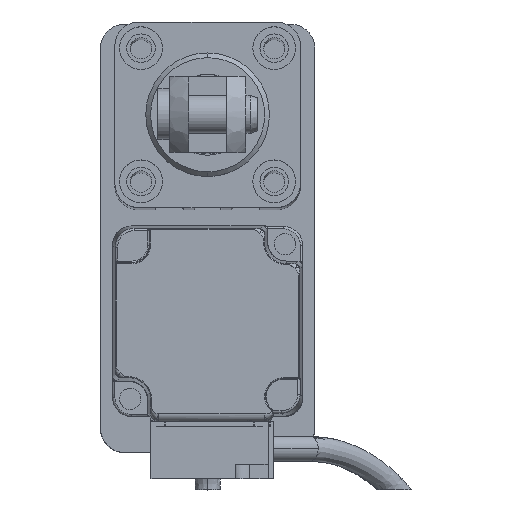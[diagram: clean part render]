
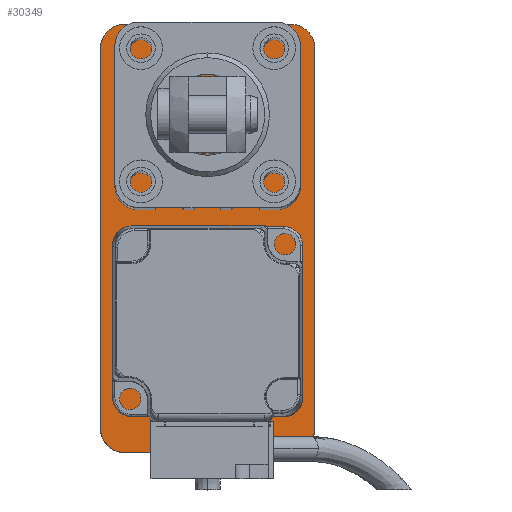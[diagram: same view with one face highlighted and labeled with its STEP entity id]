
A CAD part, top view. The second image highlights one B-rep face of the part: STEP entity #30349.
In plain terms, the highlighted planar face has unit normal (0, 0, 1).
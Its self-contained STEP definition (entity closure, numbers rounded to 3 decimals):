
#699 = PLANE ( 'NONE',  #18554 ) ;
#1515 = EDGE_CURVE ( 'NONE', #13405, #32506, #2618, .T. ) ;
#2069 = AXIS2_PLACEMENT_3D ( 'NONE', #21797, #24410, #14062 ) ;
#2164 = CARTESIAN_POINT ( 'NONE',  ( 17.5, 40., 10. ) ) ;
#2618 = CIRCLE ( 'NONE', #21919, 5. ) ;
#3718 = DIRECTION ( 'NONE',  ( -1., 0., 0. ) ) ;
#3788 = CARTESIAN_POINT ( 'NONE',  ( -17.5, 40., 10. ) ) ;
#4098 = DIRECTION ( 'NONE',  ( 1., 0., 0. ) ) ;
#4753 = CARTESIAN_POINT ( 'NONE',  ( -22.5, -40., 10. ) ) ;
#5174 = ORIENTED_EDGE ( 'NONE', *, *, #17208, .T. ) ;
#5832 = VECTOR ( 'NONE', #28230, 1000. ) ;
#5881 = DIRECTION ( 'NONE',  ( 1., 0., 0. ) ) ;
#7278 = EDGE_CURVE ( 'NONE', #21080, #26877, #25868, .T. ) ;
#9710 = EDGE_CURVE ( 'NONE', #23598, #21080, #30358, .T. ) ;
#9798 = ORIENTED_EDGE ( 'NONE', *, *, #9710, .T. ) ;
#9951 = DIRECTION ( 'NONE',  ( 1., 0., 0. ) ) ;
#10911 = CARTESIAN_POINT ( 'NONE',  ( -22.5, 40., 10. ) ) ;
#11321 = VECTOR ( 'NONE', #3718, 1000. ) ;
#11742 = VERTEX_POINT ( 'NONE', #4753 ) ;
#11876 = DIRECTION ( 'NONE',  ( 1., 0., 0. ) ) ;
#12139 = LINE ( 'NONE', #14166, #28802 ) ;
#12487 = EDGE_CURVE ( 'NONE', #11742, #23598, #16008, .T. ) ;
#12656 = LINE ( 'NONE', #30723, #5832 ) ;
#13069 = EDGE_LOOP ( 'NONE', ( #18656, #18942, #15295, #21351, #5174, #13977, #9798, #17284 ) ) ;
#13405 = VERTEX_POINT ( 'NONE', #24565 ) ;
#13959 = CARTESIAN_POINT ( 'NONE',  ( 22.5, -40., 10. ) ) ;
#13973 = VERTEX_POINT ( 'NONE', #10911 ) ;
#13977 = ORIENTED_EDGE ( 'NONE', *, *, #12487, .T. ) ;
#14062 = DIRECTION ( 'NONE',  ( 1., 0., 0. ) ) ;
#14166 = CARTESIAN_POINT ( 'NONE',  ( -22.5, -45., 10. ) ) ;
#14578 = DIRECTION ( 'NONE',  ( 1., 0., 0. ) ) ;
#15295 = ORIENTED_EDGE ( 'NONE', *, *, #32486, .T. ) ;
#15917 = FACE_OUTER_BOUND ( 'NONE', #13069, .T. ) ;
#16008 = CIRCLE ( 'NONE', #2069, 5. ) ;
#16653 = CARTESIAN_POINT ( 'NONE',  ( -17.5, -45., 10. ) ) ;
#17208 = EDGE_CURVE ( 'NONE', #13973, #11742, #12139, .T. ) ;
#17284 = ORIENTED_EDGE ( 'NONE', *, *, #7278, .T. ) ;
#18554 = AXIS2_PLACEMENT_3D ( 'NONE', #18773, #21387, #5881 ) ;
#18656 = ORIENTED_EDGE ( 'NONE', *, *, #29317, .T. ) ;
#18756 = CARTESIAN_POINT ( 'NONE',  ( 22.5, 45., 10. ) ) ;
#18773 = CARTESIAN_POINT ( 'NONE',  ( 0., 0., 10. ) ) ;
#18942 = ORIENTED_EDGE ( 'NONE', *, *, #1515, .T. ) ;
#19345 = CARTESIAN_POINT ( 'NONE',  ( -17.5, 45., 10. ) ) ;
#19382 = CARTESIAN_POINT ( 'NONE',  ( 22.5, -45., 10. ) ) ;
#19986 = VERTEX_POINT ( 'NONE', #19345 ) ;
#21080 = VERTEX_POINT ( 'NONE', #29746 ) ;
#21351 = ORIENTED_EDGE ( 'NONE', *, *, #27722, .T. ) ;
#21387 = DIRECTION ( 'NONE',  ( 0., 0., 1. ) ) ;
#21797 = CARTESIAN_POINT ( 'NONE',  ( -17.5, -40., 10. ) ) ;
#21919 = AXIS2_PLACEMENT_3D ( 'NONE', #2164, #25974, #9951 ) ;
#22210 = DIRECTION ( 'NONE',  ( 0., 0., 1. ) ) ;
#23598 = VERTEX_POINT ( 'NONE', #16653 ) ;
#24329 = CARTESIAN_POINT ( 'NONE',  ( 17.5, 45., 10. ) ) ;
#24410 = DIRECTION ( 'NONE',  ( 0., 0., 1. ) ) ;
#24565 = CARTESIAN_POINT ( 'NONE',  ( 22.5, 40., 10. ) ) ;
#25868 = CIRCLE ( 'NONE', #26322, 5. ) ;
#25962 = LINE ( 'NONE', #18756, #11321 ) ;
#25974 = DIRECTION ( 'NONE',  ( 0., 0., 1. ) ) ;
#26322 = AXIS2_PLACEMENT_3D ( 'NONE', #27557, #30162, #14578 ) ;
#26877 = VERTEX_POINT ( 'NONE', #13959 ) ;
#27557 = CARTESIAN_POINT ( 'NONE',  ( 17.5, -40., 10. ) ) ;
#27722 = EDGE_CURVE ( 'NONE', #19986, #13973, #27795, .T. ) ;
#27795 = CIRCLE ( 'NONE', #29604, 5. ) ;
#28230 = DIRECTION ( 'NONE',  ( 0., 1., 0. ) ) ;
#28802 = VECTOR ( 'NONE', #29963, 1000. ) ;
#29317 = EDGE_CURVE ( 'NONE', #26877, #13405, #12656, .T. ) ;
#29604 = AXIS2_PLACEMENT_3D ( 'NONE', #3788, #22210, #11876 ) ;
#29746 = CARTESIAN_POINT ( 'NONE',  ( 17.5, -45., 10. ) ) ;
#29963 = DIRECTION ( 'NONE',  ( 0., -1., 0. ) ) ;
#30162 = DIRECTION ( 'NONE',  ( 0., 0., 1. ) ) ;
#30349 = ADVANCED_FACE ( 'NONE', ( #15917 ), #699, .T. ) ;
#30358 = LINE ( 'NONE', #19382, #31999 ) ;
#30723 = CARTESIAN_POINT ( 'NONE',  ( 22.5, -45., 10. ) ) ;
#31999 = VECTOR ( 'NONE', #4098, 1000. ) ;
#32486 = EDGE_CURVE ( 'NONE', #32506, #19986, #25962, .T. ) ;
#32506 = VERTEX_POINT ( 'NONE', #24329 ) ;
